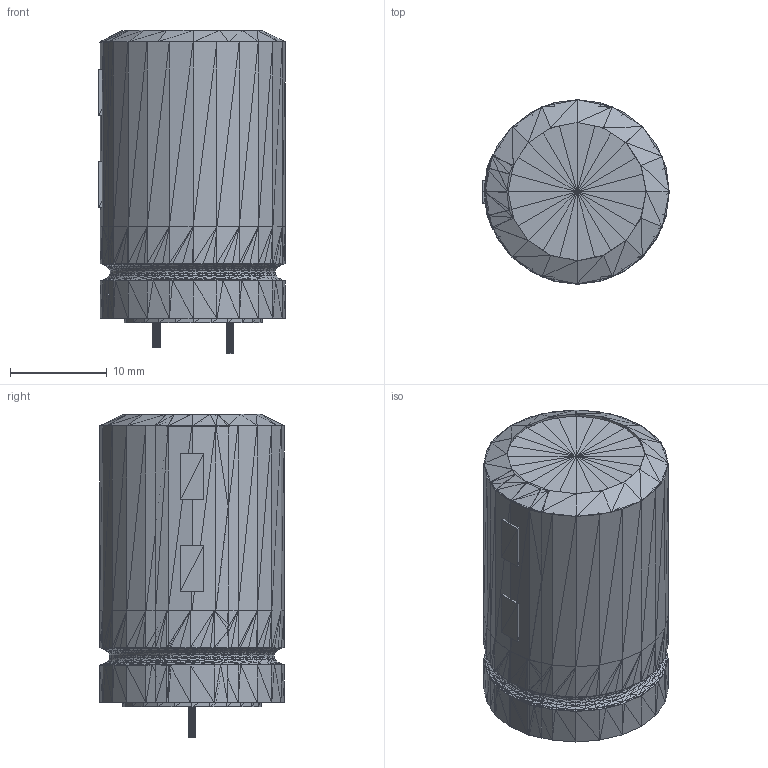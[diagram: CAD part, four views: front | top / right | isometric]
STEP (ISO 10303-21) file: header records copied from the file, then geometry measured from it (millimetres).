
FILE_DESCRIPTION(('HOOPS Exchange Step'),'2;1');
FILE_NAME('***.stp');
FILE_SCHEMA( ('AP242_MANAGED_MODEL_BASED_3D_ENGINEERING_MIM_LF {1 0 10303 442 1 1 4 }') );
Length unit declared in the file: inch
Products named in the file (12): RADPOLCAPLG_2; RADPOLCAPLG_3; RADPOLCAPLG_4; RADPOLCAPLG_5; RADPOLCAPLG_6; RADPOLCAPLG_7; RADPOLCAPLG_8; RADPOLCAPLG_9; RADPOLCAPLG_10; RADPOLCAPLG_11; RADPOLCAPLG_12; RADPOLCAPLG
Assembly tree (11 placements, depth 2):
  RADPOLCAPLG
    RADPOLCAPLG_2
    RADPOLCAPLG_3
    RADPOLCAPLG_4
    RADPOLCAPLG_5
    RADPOLCAPLG_6
    RADPOLCAPLG_7
    RADPOLCAPLG_8
    RADPOLCAPLG_9
    RADPOLCAPLG_10
    RADPOLCAPLG_11
    RADPOLCAPLG_12
Bounding box: 19.29 x 19.06 x 33.42 mm (x, y, z)
Volume: 8496 mm3; surface area: 4603.2 mm2
Topology: 10 solids, 12 shells, 2233 faces, 3360 edges, 1147 vertices
Faces by surface type: plane 2233
Entity records: 44183 total; most frequent: DIRECTION 7874, CARTESIAN_POINT 6764, ORIENTED_EDGE 6699, VECTOR 3360, LINE 3360, EDGE_CURVE 3360, AXIS2_PLACEMENT_3D 2257, PLANE 2233
